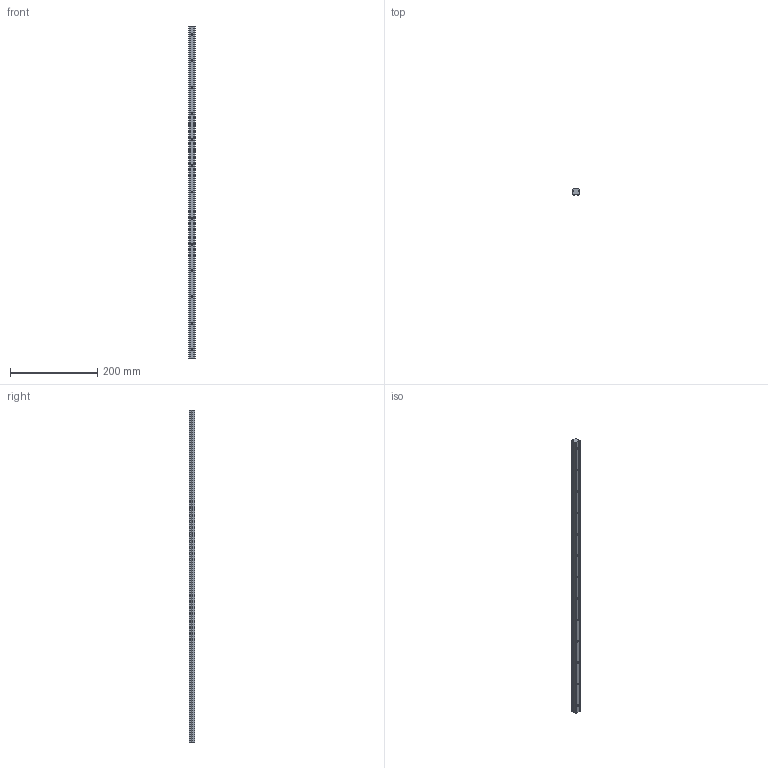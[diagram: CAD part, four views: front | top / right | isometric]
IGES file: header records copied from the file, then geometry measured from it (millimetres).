
Start section: SolidWorks IGES file using analytic representation for surfaces
Global section: file name: C:\Users\IanO\Desktop\L1016_v2\L1016.BL15_v2\L1016.BL15_v2_20190611_IGES\L1016.BL15-0760.igs; native system: SolidWorks 2017; preprocessor: SolidWorks 2017; author: IanO; date: 190612.122637; units: millimetre
Bounding box: 15 x 13 x 760 mm (x, y, z)
Surface area: 46726.1 mm2 (no closed solid volume)
Topology: 0 solids, 0 shells, 91 faces, 2024 edges, 2024 vertices
Faces by surface type: revolution 56, bspline 35
